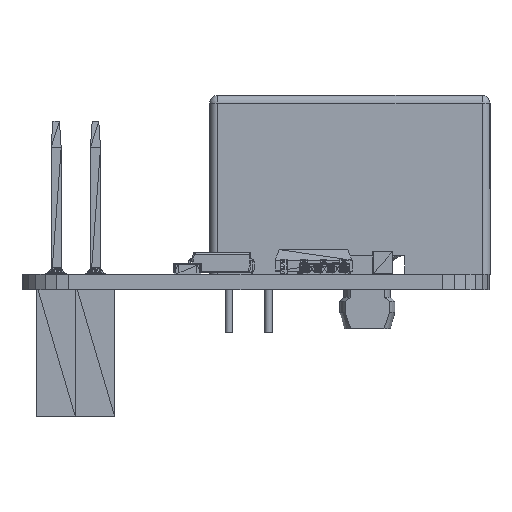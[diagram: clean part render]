
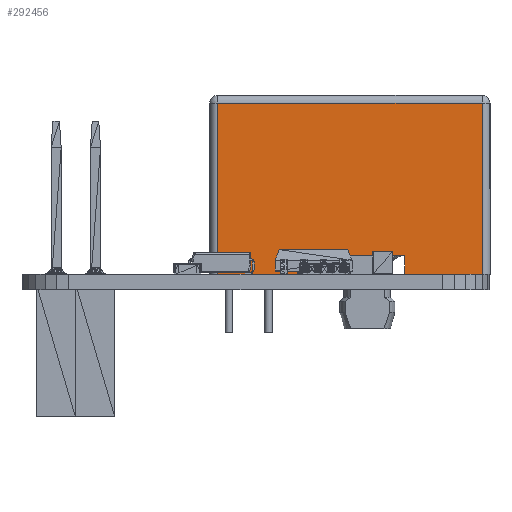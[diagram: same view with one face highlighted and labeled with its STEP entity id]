
A CAD part, left-side view. The second image highlights one B-rep face of the part: STEP entity #292456.
In plain terms, the highlighted planar face has unit normal (-1, 0, 0).
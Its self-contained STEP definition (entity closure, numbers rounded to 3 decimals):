
#1889=FACE_OUTER_BOUND('',#28231,.T.);
#28231=EDGE_LOOP('',(#187816,#187817,#187818,#187819,#187820,#187821,#187822,
#187823));
#54478=LINE('',#439120,#93773);
#54481=LINE('',#439130,#93776);
#54515=LINE('',#439212,#93810);
#54516=LINE('',#439216,#93811);
#54517=LINE('',#439217,#93812);
#54518=LINE('',#439219,#93813);
#54519=LINE('',#439221,#93814);
#54520=LINE('',#439222,#93815);
#93773=VECTOR('',#346534,1.);
#93776=VECTOR('',#346545,1.);
#93810=VECTOR('',#346617,1.);
#93811=VECTOR('',#346620,1.);
#93812=VECTOR('',#346621,1.);
#93813=VECTOR('',#346622,1.);
#93814=VECTOR('',#346623,1.);
#93815=VECTOR('',#346624,1.);
#133298=VERTEX_POINT('',#439118);
#133299=VERTEX_POINT('',#439119);
#133302=VERTEX_POINT('',#439128);
#133331=VERTEX_POINT('',#439210);
#133332=VERTEX_POINT('',#439214);
#133333=VERTEX_POINT('',#439215);
#133334=VERTEX_POINT('',#439218);
#133335=VERTEX_POINT('',#439220);
#147364=EDGE_CURVE('',#133298,#133299,#54478,.T.);
#147370=EDGE_CURVE('',#133298,#133302,#54481,.T.);
#147412=EDGE_CURVE('',#133302,#133331,#54515,.T.);
#147413=EDGE_CURVE('',#133332,#133333,#54516,.T.);
#147414=EDGE_CURVE('',#133299,#133332,#54517,.T.);
#147415=EDGE_CURVE('',#133331,#133334,#54518,.T.);
#147416=EDGE_CURVE('',#133335,#133334,#54519,.T.);
#147417=EDGE_CURVE('',#133335,#133333,#54520,.T.);
#187816=ORIENTED_EDGE('',*,*,#147413,.F.);
#187817=ORIENTED_EDGE('',*,*,#147414,.F.);
#187818=ORIENTED_EDGE('',*,*,#147364,.F.);
#187819=ORIENTED_EDGE('',*,*,#147370,.T.);
#187820=ORIENTED_EDGE('',*,*,#147412,.T.);
#187821=ORIENTED_EDGE('',*,*,#147415,.T.);
#187822=ORIENTED_EDGE('',*,*,#147416,.F.);
#187823=ORIENTED_EDGE('',*,*,#147417,.T.);
#266384=PLANE('',#319204);
#292456=ADVANCED_FACE('',(#1889),#266384,.T.);
#319204=AXIS2_PLACEMENT_3D('',#439213,#346618,#346619);
#346534=DIRECTION('',(0.,1.,0.));
#346545=DIRECTION('',(0.,0.,1.));
#346617=DIRECTION('',(0.,1.,0.));
#346618=DIRECTION('center_axis',(-1.,0.,0.));
#346619=DIRECTION('ref_axis',(0.,-1.,0.));
#346620=DIRECTION('',(0.,-1.,0.));
#346621=DIRECTION('',(0.,0.,1.));
#346622=DIRECTION('',(0.,0.,1.));
#346623=DIRECTION('',(0.,1.,0.));
#346624=DIRECTION('',(0.,0.,1.));
#439118=CARTESIAN_POINT('',(-6.6,0.,-17.5));
#439119=CARTESIAN_POINT('',(-6.6,11.,-17.5));
#439120=CARTESIAN_POINT('',(-6.6,0.,-17.5));
#439128=CARTESIAN_POINT('',(-6.6,0.,-10.3));
#439130=CARTESIAN_POINT('',(-6.6,0.,-17.5));
#439210=CARTESIAN_POINT('',(-6.6,1.2,-10.3));
#439212=CARTESIAN_POINT('',(-6.6,0.,-10.3));
#439213=CARTESIAN_POINT('Origin',(-6.6,11.5,0.));
#439214=CARTESIAN_POINT('',(-6.6,11.,-0.5));
#439215=CARTESIAN_POINT('',(-6.6,0.,-0.5));
#439216=CARTESIAN_POINT('',(-6.6,11.,-0.5));
#439217=CARTESIAN_POINT('',(-6.6,11.,-17.5));
#439218=CARTESIAN_POINT('',(-6.6,1.2,-5.46));
#439219=CARTESIAN_POINT('',(-6.6,1.2,-10.3));
#439220=CARTESIAN_POINT('',(-6.6,0.,-5.46));
#439221=CARTESIAN_POINT('',(-6.6,0.,-5.46));
#439222=CARTESIAN_POINT('',(-6.6,0.,-5.46));
